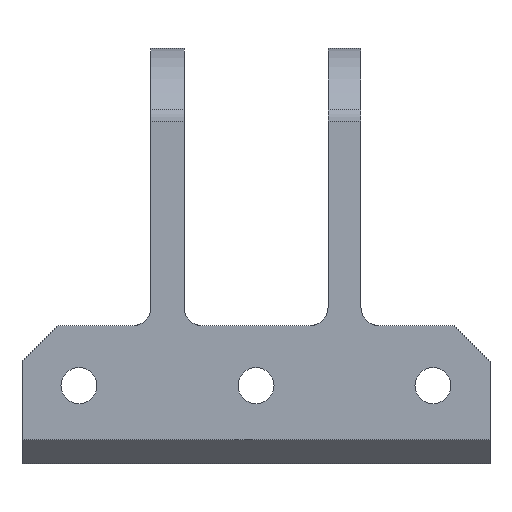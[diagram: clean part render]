
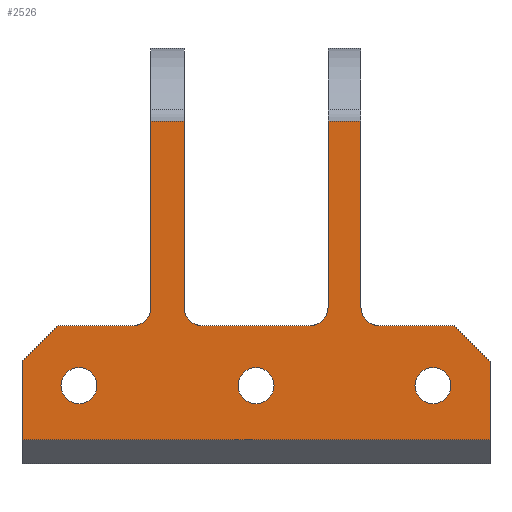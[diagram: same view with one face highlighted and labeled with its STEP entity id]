
A CAD part, front view. The second image highlights one B-rep face of the part: STEP entity #2526.
In plain terms, the highlighted planar face has unit normal (0, -1, 0).
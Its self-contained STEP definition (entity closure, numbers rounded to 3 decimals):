
#670=CARTESIAN_POINT('Vertex',(51.,0.,57.076)) ;
#724=CARTESIAN_POINT('Vertex',(51.,0.,26.)) ;
#727=CARTESIAN_POINT('Line Origine',(51.,0.,41.538)) ;
#1142=CARTESIAN_POINT('Vertex',(42.,0.,13.)) ;
#1145=CARTESIAN_POINT('Axis2P3D Location',(39.,0.,13.)) ;
#1149=CARTESIAN_POINT('Vertex',(36.,0.,13.)) ;
#1164=CARTESIAN_POINT('Axis2P3D Location',(39.,0.,13.)) ;
#1181=CARTESIAN_POINT('Line Origine',(56.5,0.,41.538)) ;
#1185=CARTESIAN_POINT('Vertex',(56.5,0.,26.)) ;
#1187=CARTESIAN_POINT('Vertex',(56.5,0.,57.076)) ;
#1559=CARTESIAN_POINT('Vertex',(12.5,0.,13.)) ;
#1562=CARTESIAN_POINT('Axis2P3D Location',(9.5,0.,13.)) ;
#1566=CARTESIAN_POINT('Vertex',(6.5,0.,13.)) ;
#1581=CARTESIAN_POINT('Axis2P3D Location',(9.5,0.,13.)) ;
#1644=CARTESIAN_POINT('Vertex',(65.5,0.,13.)) ;
#1647=CARTESIAN_POINT('Axis2P3D Location',(68.5,0.,13.)) ;
#1651=CARTESIAN_POINT('Vertex',(71.5,0.,13.)) ;
#1671=CARTESIAN_POINT('Axis2P3D Location',(68.5,0.,13.)) ;
#1699=CARTESIAN_POINT('Vertex',(59.5,0.,23.)) ;
#1702=CARTESIAN_POINT('Line Origine',(65.75,0.,23.)) ;
#1706=CARTESIAN_POINT('Vertex',(72.,0.,23.)) ;
#1726=CARTESIAN_POINT('Line Origine',(75.,0.,20.)) ;
#1730=CARTESIAN_POINT('Vertex',(78.,0.,17.)) ;
#1759=CARTESIAN_POINT('Line Origine',(12.25,0.,23.)) ;
#1763=CARTESIAN_POINT('Vertex',(6.,0.,23.)) ;
#1765=CARTESIAN_POINT('Vertex',(18.5,0.,23.)) ;
#1801=CARTESIAN_POINT('Vertex',(30.,0.,23.)) ;
#1804=CARTESIAN_POINT('Line Origine',(39.,0.,23.)) ;
#1808=CARTESIAN_POINT('Vertex',(48.,0.,23.)) ;
#1836=CARTESIAN_POINT('Vertex',(0.,0.,17.)) ;
#1839=CARTESIAN_POINT('Line Origine',(3.,0.,20.)) ;
#1869=CARTESIAN_POINT('Axis2P3D Location',(18.5,0.,26.)) ;
#1873=CARTESIAN_POINT('Vertex',(21.5,0.,26.)) ;
#1962=CARTESIAN_POINT('Axis2P3D Location',(59.5,0.,26.)) ;
#1990=CARTESIAN_POINT('Line Origine',(39.,0.,57.076)) ;
#2024=CARTESIAN_POINT('Axis2P3D Location',(48.,0.,26.)) ;
#2231=CARTESIAN_POINT('Line Origine',(78.,0.,10.5)) ;
#2235=CARTESIAN_POINT('Vertex',(78.,0.,4.)) ;
#2271=CARTESIAN_POINT('Line Origine',(39.,0.,4.)) ;
#2275=CARTESIAN_POINT('Vertex',(0.,0.,4.)) ;
#2300=CARTESIAN_POINT('Line Origine',(0.,0.,10.5)) ;
#2443=CARTESIAN_POINT('Vertex',(21.5,0.,57.076)) ;
#2446=CARTESIAN_POINT('Line Origine',(39.,0.,57.076)) ;
#2450=CARTESIAN_POINT('Vertex',(27.,0.,57.076)) ;
#2472=CARTESIAN_POINT('Axis2P3D Location',(0.,0.,0.)) ;
#2477=CARTESIAN_POINT('Line Origine',(21.5,0.,41.538)) ;
#2482=CARTESIAN_POINT('Axis2P3D Location',(30.,0.,26.)) ;
#2486=CARTESIAN_POINT('Vertex',(27.,0.,26.)) ;
#2489=CARTESIAN_POINT('Line Origine',(27.,0.,41.538)) ;
#728=DIRECTION('Vector Direction',(0.,0.,1.)) ;
#1146=DIRECTION('Axis2P3D Direction',(0.,-1.,0.)) ;
#1165=DIRECTION('Axis2P3D Direction',(0.,-1.,0.)) ;
#1182=DIRECTION('Vector Direction',(0.,0.,1.)) ;
#1563=DIRECTION('Axis2P3D Direction',(0.,-1.,0.)) ;
#1582=DIRECTION('Axis2P3D Direction',(0.,-1.,0.)) ;
#1648=DIRECTION('Axis2P3D Direction',(0.,-1.,0.)) ;
#1672=DIRECTION('Axis2P3D Direction',(0.,-1.,0.)) ;
#1703=DIRECTION('Vector Direction',(1.,0.,0.)) ;
#1727=DIRECTION('Vector Direction',(-0.707,0.,0.707)) ;
#1760=DIRECTION('Vector Direction',(1.,0.,0.)) ;
#1805=DIRECTION('Vector Direction',(1.,0.,0.)) ;
#1840=DIRECTION('Vector Direction',(0.707,0.,0.707)) ;
#1870=DIRECTION('Axis2P3D Direction',(0.,1.,0.)) ;
#1963=DIRECTION('Axis2P3D Direction',(0.,1.,0.)) ;
#1991=DIRECTION('Vector Direction',(1.,0.,0.)) ;
#2025=DIRECTION('Axis2P3D Direction',(0.,1.,0.)) ;
#2232=DIRECTION('Vector Direction',(0.,0.,1.)) ;
#2272=DIRECTION('Vector Direction',(1.,0.,0.)) ;
#2301=DIRECTION('Vector Direction',(0.,0.,1.)) ;
#2447=DIRECTION('Vector Direction',(1.,0.,0.)) ;
#2473=DIRECTION('Axis2P3D Direction',(0.,-1.,0.)) ;
#2474=DIRECTION('Axis2P3D XDirection',(1.,0.,0.)) ;
#2478=DIRECTION('Vector Direction',(0.,0.,1.)) ;
#2483=DIRECTION('Axis2P3D Direction',(0.,-1.,0.)) ;
#2490=DIRECTION('Vector Direction',(0.,0.,1.)) ;
#1147=AXIS2_PLACEMENT_3D('Circle Axis2P3D',#1145,#1146,$) ;
#1166=AXIS2_PLACEMENT_3D('Circle Axis2P3D',#1164,#1165,$) ;
#1564=AXIS2_PLACEMENT_3D('Circle Axis2P3D',#1562,#1563,$) ;
#1583=AXIS2_PLACEMENT_3D('Circle Axis2P3D',#1581,#1582,$) ;
#1649=AXIS2_PLACEMENT_3D('Circle Axis2P3D',#1647,#1648,$) ;
#1673=AXIS2_PLACEMENT_3D('Circle Axis2P3D',#1671,#1672,$) ;
#1871=AXIS2_PLACEMENT_3D('Circle Axis2P3D',#1869,#1870,$) ;
#1964=AXIS2_PLACEMENT_3D('Circle Axis2P3D',#1962,#1963,$) ;
#2026=AXIS2_PLACEMENT_3D('Circle Axis2P3D',#2024,#2025,$) ;
#2475=AXIS2_PLACEMENT_3D('Plane Axis2P3D',#2472,#2473,#2474) ;
#2484=AXIS2_PLACEMENT_3D('Circle Axis2P3D',#2482,#2483,$) ;
#2495=ORIENTED_EDGE('',*,*,#2481,.F.) ;
#2496=ORIENTED_EDGE('',*,*,#1875,.T.) ;
#2497=ORIENTED_EDGE('',*,*,#1767,.F.) ;
#2498=ORIENTED_EDGE('',*,*,#1843,.F.) ;
#2499=ORIENTED_EDGE('',*,*,#2304,.F.) ;
#2500=ORIENTED_EDGE('',*,*,#2277,.T.) ;
#2501=ORIENTED_EDGE('',*,*,#2237,.T.) ;
#2502=ORIENTED_EDGE('',*,*,#1732,.F.) ;
#2503=ORIENTED_EDGE('',*,*,#1708,.F.) ;
#2504=ORIENTED_EDGE('',*,*,#1966,.T.) ;
#2505=ORIENTED_EDGE('',*,*,#1189,.T.) ;
#2506=ORIENTED_EDGE('',*,*,#1994,.T.) ;
#2507=ORIENTED_EDGE('',*,*,#731,.F.) ;
#2508=ORIENTED_EDGE('',*,*,#2028,.T.) ;
#2509=ORIENTED_EDGE('',*,*,#1810,.F.) ;
#2510=ORIENTED_EDGE('',*,*,#2488,.T.) ;
#2511=ORIENTED_EDGE('',*,*,#2493,.T.) ;
#2512=ORIENTED_EDGE('',*,*,#2452,.T.) ;
#2515=ORIENTED_EDGE('',*,*,#1568,.F.) ;
#2516=ORIENTED_EDGE('',*,*,#1585,.F.) ;
#2519=ORIENTED_EDGE('',*,*,#1675,.F.) ;
#2520=ORIENTED_EDGE('',*,*,#1653,.F.) ;
#2523=ORIENTED_EDGE('',*,*,#1151,.F.) ;
#2524=ORIENTED_EDGE('',*,*,#1168,.F.) ;
#2517=FACE_BOUND('',#2514,.T.) ;
#2521=FACE_BOUND('',#2518,.T.) ;
#2525=FACE_BOUND('',#2522,.T.) ;
#729=VECTOR('Line Direction',#728,1.) ;
#1183=VECTOR('Line Direction',#1182,1.) ;
#1704=VECTOR('Line Direction',#1703,1.) ;
#1728=VECTOR('Line Direction',#1727,1.) ;
#1761=VECTOR('Line Direction',#1760,1.) ;
#1806=VECTOR('Line Direction',#1805,1.) ;
#1841=VECTOR('Line Direction',#1840,1.) ;
#1992=VECTOR('Line Direction',#1991,1.) ;
#2233=VECTOR('Line Direction',#2232,1.) ;
#2273=VECTOR('Line Direction',#2272,1.) ;
#2302=VECTOR('Line Direction',#2301,1.) ;
#2448=VECTOR('Line Direction',#2447,1.) ;
#2479=VECTOR('Line Direction',#2478,1.) ;
#2491=VECTOR('Line Direction',#2490,1.) ;
#2526=ADVANCED_FACE('Corps principal',(#2513,#2517,#2521,#2525),#2476,.T.) ;
#1148=CIRCLE('generated circle',#1147,3.) ;
#1167=CIRCLE('generated circle',#1166,3.) ;
#1565=CIRCLE('generated circle',#1564,3.) ;
#1584=CIRCLE('generated circle',#1583,3.) ;
#1650=CIRCLE('generated circle',#1649,3.) ;
#1674=CIRCLE('generated circle',#1673,3.) ;
#1872=CIRCLE('generated circle',#1871,3.) ;
#1965=CIRCLE('generated circle',#1964,3.) ;
#2027=CIRCLE('generated circle',#2026,3.) ;
#2485=CIRCLE('generated circle',#2484,3.) ;
#731=EDGE_CURVE('',#725,#671,#730,.T.) ;
#1151=EDGE_CURVE('',#1143,#1150,#1148,.T.) ;
#1168=EDGE_CURVE('',#1150,#1143,#1167,.T.) ;
#1189=EDGE_CURVE('',#1186,#1188,#1184,.T.) ;
#1568=EDGE_CURVE('',#1560,#1567,#1565,.T.) ;
#1585=EDGE_CURVE('',#1567,#1560,#1584,.T.) ;
#1653=EDGE_CURVE('',#1645,#1652,#1650,.T.) ;
#1675=EDGE_CURVE('',#1652,#1645,#1674,.T.) ;
#1708=EDGE_CURVE('',#1700,#1707,#1705,.T.) ;
#1732=EDGE_CURVE('',#1707,#1731,#1729,.F.) ;
#1767=EDGE_CURVE('',#1764,#1766,#1762,.T.) ;
#1810=EDGE_CURVE('',#1802,#1809,#1807,.T.) ;
#1843=EDGE_CURVE('',#1837,#1764,#1842,.T.) ;
#1875=EDGE_CURVE('',#1874,#1766,#1872,.T.) ;
#1966=EDGE_CURVE('',#1700,#1186,#1965,.T.) ;
#1994=EDGE_CURVE('',#1188,#671,#1993,.F.) ;
#2028=EDGE_CURVE('',#725,#1809,#2027,.T.) ;
#2237=EDGE_CURVE('',#2236,#1731,#2234,.T.) ;
#2277=EDGE_CURVE('',#2276,#2236,#2274,.T.) ;
#2304=EDGE_CURVE('',#2276,#1837,#2303,.T.) ;
#2452=EDGE_CURVE('',#2451,#2444,#2449,.F.) ;
#2481=EDGE_CURVE('',#1874,#2444,#2480,.T.) ;
#2488=EDGE_CURVE('',#1802,#2487,#2485,.F.) ;
#2493=EDGE_CURVE('',#2487,#2451,#2492,.T.) ;
#2494=EDGE_LOOP('',(#2495,#2496,#2497,#2498,#2499,#2500,#2501,#2502,#2503,#2504,#2505,#2506,#2507,#2508,#2509,#2510,#2511,#2512)) ;
#2514=EDGE_LOOP('',(#2515,#2516)) ;
#2518=EDGE_LOOP('',(#2519,#2520)) ;
#2522=EDGE_LOOP('',(#2523,#2524)) ;
#2513=FACE_OUTER_BOUND('',#2494,.T.) ;
#730=LINE('Line',#727,#729) ;
#1184=LINE('Line',#1181,#1183) ;
#1705=LINE('Line',#1702,#1704) ;
#1729=LINE('Line',#1726,#1728) ;
#1762=LINE('Line',#1759,#1761) ;
#1807=LINE('Line',#1804,#1806) ;
#1842=LINE('Line',#1839,#1841) ;
#1993=LINE('Line',#1990,#1992) ;
#2234=LINE('Line',#2231,#2233) ;
#2274=LINE('Line',#2271,#2273) ;
#2303=LINE('Line',#2300,#2302) ;
#2449=LINE('Line',#2446,#2448) ;
#2480=LINE('Line',#2477,#2479) ;
#2492=LINE('Line',#2489,#2491) ;
#2476=PLANE('',#2475) ;
#671=VERTEX_POINT('',#670) ;
#725=VERTEX_POINT('',#724) ;
#1143=VERTEX_POINT('',#1142) ;
#1150=VERTEX_POINT('',#1149) ;
#1186=VERTEX_POINT('',#1185) ;
#1188=VERTEX_POINT('',#1187) ;
#1560=VERTEX_POINT('',#1559) ;
#1567=VERTEX_POINT('',#1566) ;
#1645=VERTEX_POINT('',#1644) ;
#1652=VERTEX_POINT('',#1651) ;
#1700=VERTEX_POINT('',#1699) ;
#1707=VERTEX_POINT('',#1706) ;
#1731=VERTEX_POINT('',#1730) ;
#1764=VERTEX_POINT('',#1763) ;
#1766=VERTEX_POINT('',#1765) ;
#1802=VERTEX_POINT('',#1801) ;
#1809=VERTEX_POINT('',#1808) ;
#1837=VERTEX_POINT('',#1836) ;
#1874=VERTEX_POINT('',#1873) ;
#2236=VERTEX_POINT('',#2235) ;
#2276=VERTEX_POINT('',#2275) ;
#2444=VERTEX_POINT('',#2443) ;
#2451=VERTEX_POINT('',#2450) ;
#2487=VERTEX_POINT('',#2486) ;
